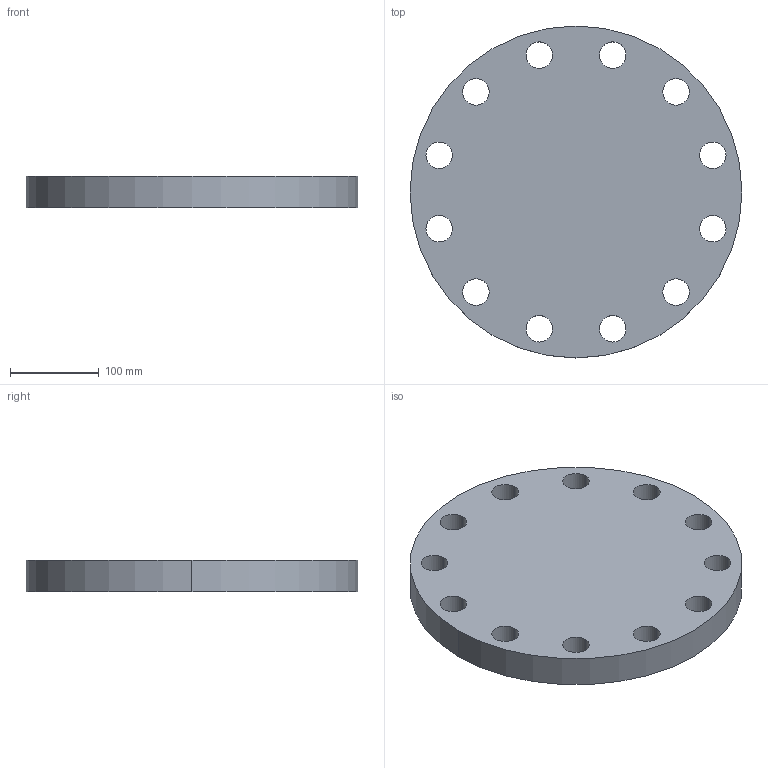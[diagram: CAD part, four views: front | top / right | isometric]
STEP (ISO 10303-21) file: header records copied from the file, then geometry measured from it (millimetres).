
FILE_DESCRIPTION (( 'STEP AP214' ), '1' );
FILE_NAME ('PN40 DN200 Type 05 - Type A Face.STEP', '2019-01-05T02:25:35', ( '' ), ( '' ), 'SwSTEP 2.0', 'SolidWorks 2019', '' );
FILE_SCHEMA (( 'AUTOMOTIVE_DESIGN' ));
Length unit declared in the file: millimetre
Products named in the file (1): PN40 DN200 Type 05 - Type A Face
Bounding box: 375 x 375 x 36 mm (x, y, z)
Volume: 3670715.4 mm3; surface area: 287055.2 mm2
Topology: 1 solids, 1 shells, 28 faces, 78 edges, 52 vertices
Faces by surface type: cylinder 26, plane 2
Entity records: 1016 total; most frequent: DIRECTION 188, CARTESIAN_POINT 159, ORIENTED_EDGE 156, AXIS2_PLACEMENT_3D 81, EDGE_CURVE 78, CIRCLE 52, VERTEX_POINT 52, EDGE_LOOP 52
